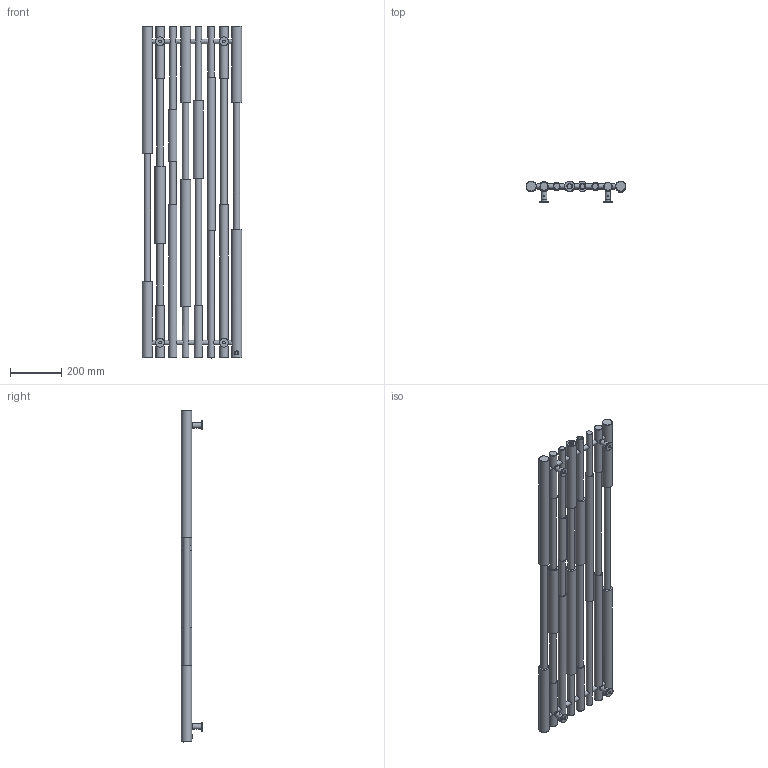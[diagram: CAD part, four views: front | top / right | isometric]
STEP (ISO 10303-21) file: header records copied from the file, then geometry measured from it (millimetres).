
FILE_DESCRIPTION((''),'2;1');
FILE_NAME('Z:\R\G\P\RGP103 - Grzejnik Tube (Cane)\Work\Inventor\Marketing\Katalog 2012\CAD 3D\TUB-1300-390-ZX.stp','2012-07-12T12:56:45',('KurKa'),(''),'Autodesk Inventor 2012','Autodesk Inventor 2012','');
FILE_SCHEMA(('AUTOMOTIVE_DESIGN { 1 0 10303 214 1 1 1 1 }'));
Length unit declared in the file: millimetre
Products named in the file (3): TUB-1300-390-ZX; TUB-1300-390-ZX v1; Konsola Ribbon
Assembly tree (5 placements, depth 2):
  TUB-1300-390-ZX
    TUB-1300-390-ZX v1
    Konsola Ribbon  x4
Bounding box: 390 x 83 x 1300 mm (x, y, z)
Volume: 8420318.9 mm3; surface area: 1092986.4 mm2
Topology: 5 solids, 5 shells, 177 faces, 388 edges, 268 vertices
Faces by surface type: cylinder 80, plane 68, cone 21, torus 8
Full cylindrical faces by diameter (mm): 4.134 x4, 10 x4, 11.445 x1, 15.9 x1, 17 x4, 18 x14, 18.631 x2, 19 x4, 22 x4, 25 x13, 32 x8, 35 x4, 40 x8
Entity records: 4699 total; most frequent: CARTESIAN_POINT 2021, DIRECTION 518, ORIENTED_EDGE 340, EDGE_LOOP 288, AXIS2_PLACEMENT_3D 255, EDGE_CURVE 170, VERTEX_POINT 166, FACE_BOUND 153
